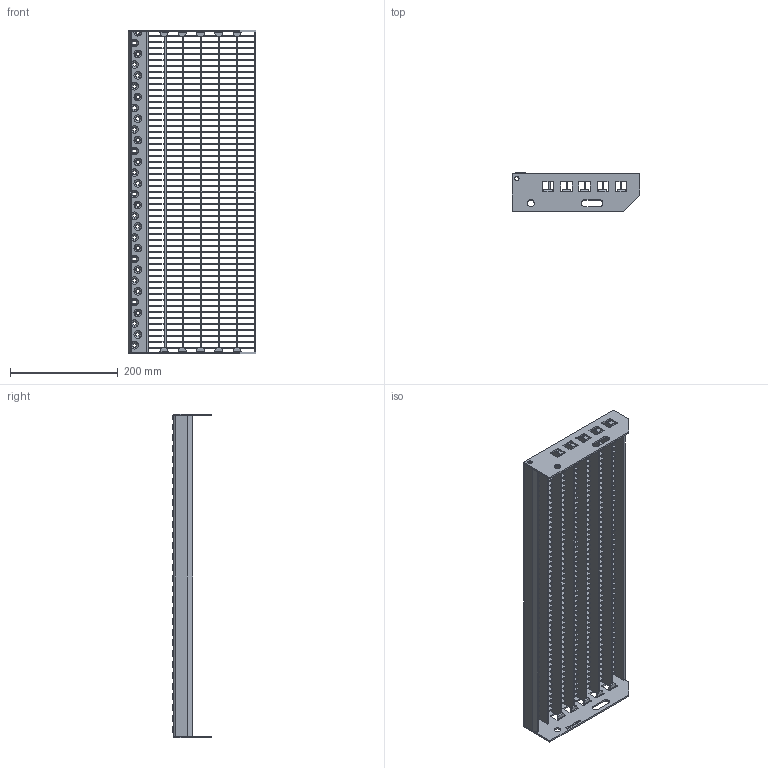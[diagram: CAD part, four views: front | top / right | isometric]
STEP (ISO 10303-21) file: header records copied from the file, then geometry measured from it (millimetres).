
FILE_DESCRIPTION(/* description */ ('','CAx-IF Rec.Pracs.---Representation and Presentation of Product Manufacturing Information (PMI)---3.8---2014-02-18'),/* implementation_level */ '2;1');
FILE_NAME(/* name */ 'C:\Users\phaverkotte\Desktop\Lager STEP\P-Stufen\P 230-33 11-2\P 230-33 11-2 600mm x 240mm.stp',/* time_stamp */ '2018-03-24T11:14:58+01:00',/* author */ ('phaverkotte'),/* organization */ (''),/* preprocessor_version */ 'ST-DEVELOPER v16.13',/* originating_system */ 'Autodesk Inventor 2018',/* authorisation */ '');
FILE_SCHEMA (('AP242_MANAGED_MODEL_BASED_3D_ENGINEERING_MIM_LF { 1 0 10303 442 1 1 4 }'));
Length unit declared in the file: millimetre
Products named in the file (8): Schodišťový stupeň přím
ý lisovaný; Seitenplatte ausgeklinkt links; Seitenplatte 240 ausgeklinkt extern rechts; Schod nášlap; P Rošt schodu; Querstab; P Nosný pás; Hinteres Flach
Assembly tree (64 placements, depth 3):
  Schodišťový stupeň přím
ý lisovaný
    Seitenplatte ausgeklinkt links
    Seitenplatte 240 ausgeklinkt extern rechts
    Schod nášlap
    P Rošt schodu
      Querstab  x53
      P Nosný pás  x6
      Hinteres Flach
Bounding box: 236.98 x 72.75 x 600 mm (x, y, z)
Volume: 584069.9 mm3; surface area: 643701.9 mm2
Topology: 63 solids, 63 shells, 2170 faces, 5993 edges, 3966 vertices
Faces by surface type: plane 1918, cylinder 112, cone 90, torus 30, bspline 20
Full cylindrical faces by diameter (mm): 8 x2, 13 x2
Entity records: 27617 total; most frequent: CARTESIAN_POINT 7661, DIRECTION 3920, ORIENTED_EDGE 3900, EDGE_CURVE 1950, LINE 1528, VECTOR 1528, VERTEX_POINT 1331, AXIS2_PLACEMENT_3D 1196
